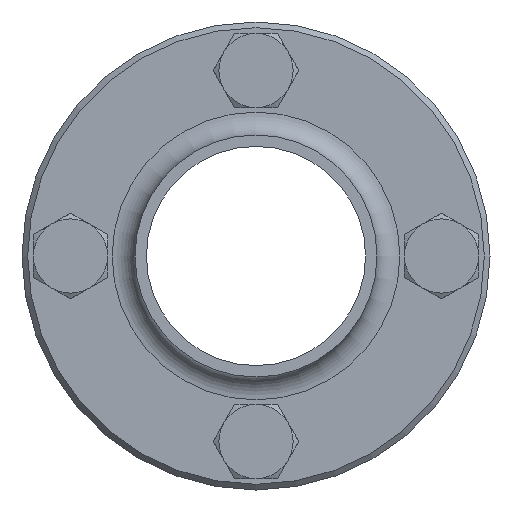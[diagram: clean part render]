
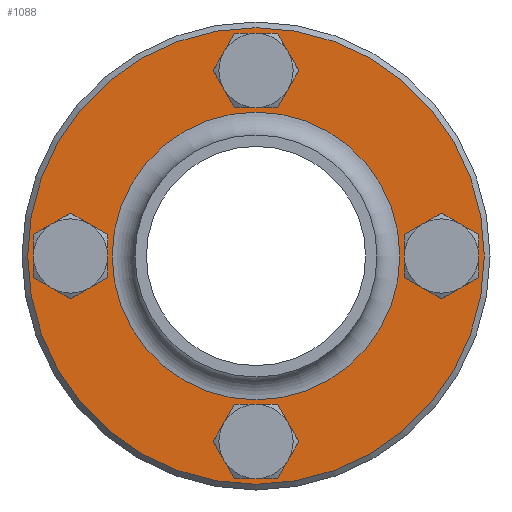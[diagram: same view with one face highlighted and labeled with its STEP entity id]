
A CAD part, front view. The second image highlights one B-rep face of the part: STEP entity #1088.
In plain terms, the highlighted planar face has unit normal (0, -1, 0).
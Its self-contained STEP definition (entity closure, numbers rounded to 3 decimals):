
#152=PLANE('',#1195);
#211=FACE_BOUND('',#381,.T.);
#212=FACE_BOUND('',#382,.T.);
#213=FACE_BOUND('',#383,.T.);
#214=FACE_BOUND('',#384,.T.);
#215=FACE_BOUND('',#385,.T.);
#280=FACE_OUTER_BOUND('',#380,.T.);
#380=EDGE_LOOP('',(#812));
#381=EDGE_LOOP('',(#813));
#382=EDGE_LOOP('',(#814));
#383=EDGE_LOOP('',(#815));
#384=EDGE_LOOP('',(#816));
#385=EDGE_LOOP('',(#817));
#491=CIRCLE('',#1155,4.5);
#493=CIRCLE('',#1158,4.5);
#495=CIRCLE('',#1161,4.5);
#497=CIRCLE('',#1164,4.5);
#513=CIRCLE('',#1194,40.);
#514=CIRCLE('',#1196,25.2);
#563=VERTEX_POINT('',#1674);
#565=VERTEX_POINT('',#1679);
#567=VERTEX_POINT('',#1684);
#569=VERTEX_POINT('',#1689);
#585=VERTEX_POINT('',#1735);
#586=VERTEX_POINT('',#1738);
#658=EDGE_CURVE('',#563,#563,#491,.T.);
#660=EDGE_CURVE('',#565,#565,#493,.T.);
#662=EDGE_CURVE('',#567,#567,#495,.T.);
#664=EDGE_CURVE('',#569,#569,#497,.T.);
#680=EDGE_CURVE('',#585,#585,#513,.T.);
#681=EDGE_CURVE('',#586,#586,#514,.T.);
#812=ORIENTED_EDGE('',*,*,#680,.T.);
#813=ORIENTED_EDGE('',*,*,#658,.T.);
#814=ORIENTED_EDGE('',*,*,#660,.T.);
#815=ORIENTED_EDGE('',*,*,#662,.T.);
#816=ORIENTED_EDGE('',*,*,#664,.T.);
#817=ORIENTED_EDGE('',*,*,#681,.F.);
#1088=ADVANCED_FACE('',(#280,#211,#212,#213,#214,#215),#152,.T.);
#1155=AXIS2_PLACEMENT_3D('',#1675,#1324,#1325);
#1158=AXIS2_PLACEMENT_3D('',#1680,#1330,#1331);
#1161=AXIS2_PLACEMENT_3D('',#1685,#1336,#1337);
#1164=AXIS2_PLACEMENT_3D('',#1690,#1342,#1343);
#1194=AXIS2_PLACEMENT_3D('',#1736,#1402,#1403);
#1195=AXIS2_PLACEMENT_3D('',#1737,#1404,#1405);
#1196=AXIS2_PLACEMENT_3D('',#1739,#1406,#1407);
#1324=DIRECTION('center_axis',(0.,1.,0.));
#1325=DIRECTION('ref_axis',(0.,0.,1.));
#1330=DIRECTION('center_axis',(0.,1.,0.));
#1331=DIRECTION('ref_axis',(1.,0.,0.));
#1336=DIRECTION('center_axis',(0.,1.,0.));
#1337=DIRECTION('ref_axis',(0.,0.,-1.));
#1342=DIRECTION('center_axis',(0.,1.,0.));
#1343=DIRECTION('ref_axis',(-1.,0.,0.));
#1402=DIRECTION('center_axis',(0.,-1.,0.));
#1403=DIRECTION('ref_axis',(1.,0.,0.));
#1404=DIRECTION('center_axis',(0.,-1.,0.));
#1405=DIRECTION('ref_axis',(0.,0.,-1.));
#1406=DIRECTION('center_axis',(0.,-1.,0.));
#1407=DIRECTION('ref_axis',(1.,0.,0.));
#1674=CARTESIAN_POINT('',(-32.5,35.,-4.5));
#1675=CARTESIAN_POINT('Origin',(-32.5,35.,0.));
#1679=CARTESIAN_POINT('',(-4.5,35.,32.5));
#1680=CARTESIAN_POINT('Origin',(0.,35.,32.5));
#1684=CARTESIAN_POINT('',(32.5,35.,4.5));
#1685=CARTESIAN_POINT('Origin',(32.5,35.,0.));
#1689=CARTESIAN_POINT('',(4.5,35.,-32.5));
#1690=CARTESIAN_POINT('Origin',(0.,35.,-32.5));
#1735=CARTESIAN_POINT('',(40.,35.,0.));
#1736=CARTESIAN_POINT('Origin',(0.,35.,0.));
#1737=CARTESIAN_POINT('Origin',(32.6,35.,0.));
#1738=CARTESIAN_POINT('',(25.2,35.,0.));
#1739=CARTESIAN_POINT('Origin',(0.,35.,0.));
